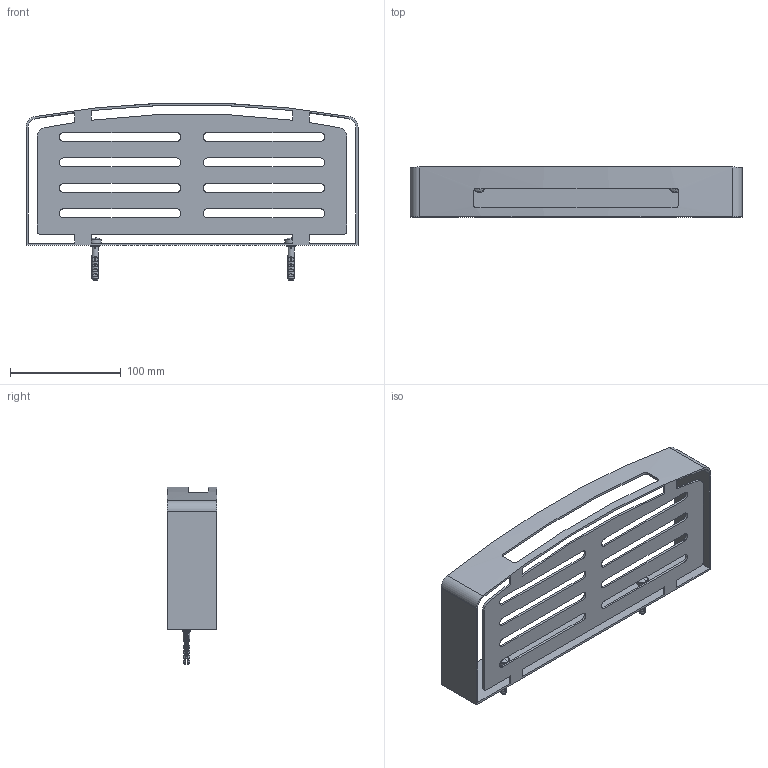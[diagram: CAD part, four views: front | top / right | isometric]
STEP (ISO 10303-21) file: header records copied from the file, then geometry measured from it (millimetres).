
FILE_DESCRIPTION(/* description */ (''),/* implementation_level */ '2;1');
FILE_NAME(/* name */ 'c:\worker\convert-fusion-r09\tmp\job-1\29\output\files\d65593cb-a1f8-4b04-8c13-544c9e66777f\6dfe2ceb-ff3f-41ee-9ea0-9e37f3120994.stp',/* time_stamp */ '2020-01-09T07:26:27+00:00',/* author */ (''),/* organization */ (''),/* preprocessor_version */ 'ST-DEVELOPER v18',/* originating_system */ 'Autodesk Translation Framework v8.12.0.6',/* authorisation */ '');
FILE_SCHEMA (('AUTOMOTIVE_DESIGN { 1 0 10303 214 3 1 1 }'));
Length unit declared in the file: millimetre
Products named in the file (1): !UN10331
Bounding box: 300 x 45 x 160.45 mm (x, y, z)
Volume: 114491.6 mm3; surface area: 126173.4 mm2
Topology: 9 solids, 9 shells, 341 faces, 912 edges, 598 vertices
Faces by surface type: plane 174, cylinder 99, bspline 48, cone 16, torus 4
Full cylindrical faces by diameter (mm): 3.8 x42, 5 x2, 5.126 x2, 6 x2, 7.5 x2, 8 x4, 9 x2, 10 x2, 11 x2
Entity records: 25413 total; most frequent: CARTESIAN_POINT 17118, ORIENTED_EDGE 1804, DIRECTION 1546, EDGE_CURVE 902, VERTEX_POINT 598, AXIS2_PLACEMENT_3D 528, LINE 490, VECTOR 490
